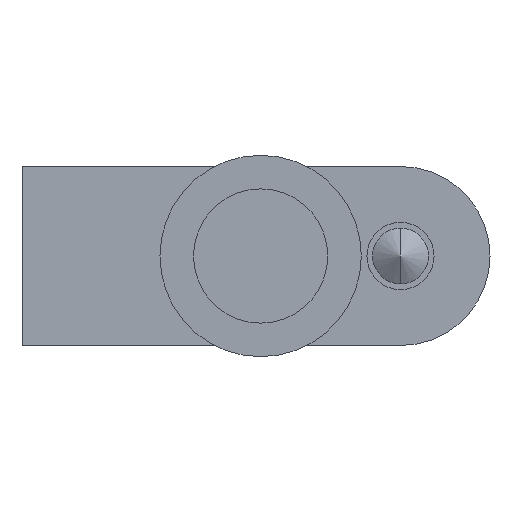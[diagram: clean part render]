
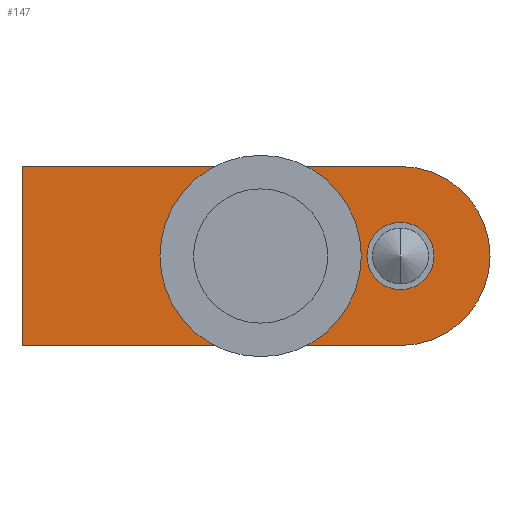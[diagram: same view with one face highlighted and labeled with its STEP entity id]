
A CAD part, front view. The second image highlights one B-rep face of the part: STEP entity #147.
In plain terms, the highlighted planar face has unit normal (0, -1, 0).
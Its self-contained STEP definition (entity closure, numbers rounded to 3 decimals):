
#3 = CARTESIAN_POINT ( 'NONE',  ( -21.33, 238.34, -8. ) ) ;
#4 = VERTEX_POINT ( 'NONE', #547 ) ;
#17 = EDGE_CURVE ( 'NONE', #141, #274, #465, .T. ) ;
#21 = ORIENTED_EDGE ( 'NONE', *, *, #178, .T. ) ;
#22 = DIRECTION ( 'NONE',  ( 0., 1., 0. ) ) ;
#38 = LINE ( 'NONE', #3, #45 ) ;
#41 = ORIENTED_EDGE ( 'NONE', *, *, #343, .F. ) ;
#44 = DIRECTION ( 'NONE',  ( 0., 0., 1. ) ) ;
#45 = VECTOR ( 'NONE', #390, 1000. ) ;
#48 = VERTEX_POINT ( 'NONE', #202 ) ;
#51 = CARTESIAN_POINT ( 'NONE',  ( -21.33, 238.34, 8. ) ) ;
#69 = DIRECTION ( 'NONE',  ( 0., 0., 1. ) ) ;
#72 = FACE_BOUND ( 'NONE', #533, .T. ) ;
#78 = CIRCLE ( 'NONE', #360, 6. ) ;
#85 = EDGE_CURVE ( 'NONE', #4, #551, #298, .T. ) ;
#92 = ORIENTED_EDGE ( 'NONE', *, *, #17, .T. ) ;
#141 = VERTEX_POINT ( 'NONE', #355 ) ;
#147 = ADVANCED_FACE ( 'NONE', ( #164, #334, #72 ), #258, .F. ) ;
#151 = DIRECTION ( 'NONE',  ( 0., 1., 0. ) ) ;
#156 = EDGE_CURVE ( 'NONE', #48, #429, #205, .T. ) ;
#162 = LINE ( 'NONE', #51, #171 ) ;
#164 = FACE_BOUND ( 'NONE', #233, .T. ) ;
#168 = CARTESIAN_POINT ( 'NONE',  ( 12.5, 238.34, -8. ) ) ;
#171 = VECTOR ( 'NONE', #44, 1000. ) ;
#175 = EDGE_CURVE ( 'NONE', #429, #48, #242, .T. ) ;
#178 = EDGE_CURVE ( 'NONE', #274, #141, #78, .T. ) ;
#200 = DIRECTION ( 'NONE',  ( 1., 0., 0. ) ) ;
#202 = CARTESIAN_POINT ( 'NONE',  ( 12.5, 238.34, -3. ) ) ;
#205 = CIRCLE ( 'NONE', #474, 3. ) ;
#228 = AXIS2_PLACEMENT_3D ( 'NONE', #306, #354, #69 ) ;
#233 = EDGE_LOOP ( 'NONE', ( #92, #21 ) ) ;
#242 = CIRCLE ( 'NONE', #228, 3. ) ;
#243 = VERTEX_POINT ( 'NONE', #168 ) ;
#258 = PLANE ( 'NONE',  #490 ) ;
#273 = EDGE_LOOP ( 'NONE', ( #438, #454, #41, #341 ) ) ;
#274 = VERTEX_POINT ( 'NONE', #318 ) ;
#278 = CARTESIAN_POINT ( 'NONE',  ( 12.5, 238.34, 3. ) ) ;
#285 = DIRECTION ( 'NONE',  ( 0., 0., 1. ) ) ;
#295 = DIRECTION ( 'NONE',  ( 0., 0., 1. ) ) ;
#298 = LINE ( 'NONE', #491, #449 ) ;
#306 = CARTESIAN_POINT ( 'NONE',  ( 12.5, 238.34, 0. ) ) ;
#309 = CARTESIAN_POINT ( 'NONE',  ( 0., 238.34, 0. ) ) ;
#316 = DIRECTION ( 'NONE',  ( 0., 1., 0. ) ) ;
#318 = CARTESIAN_POINT ( 'NONE',  ( 0., 238.34, 6. ) ) ;
#329 = DIRECTION ( 'NONE',  ( 0., 1., 0. ) ) ;
#334 = FACE_OUTER_BOUND ( 'NONE', #273, .T. ) ;
#335 = CARTESIAN_POINT ( 'NONE',  ( 12.5, 238.34, 8. ) ) ;
#341 = ORIENTED_EDGE ( 'NONE', *, *, #85, .F. ) ;
#343 = EDGE_CURVE ( 'NONE', #551, #243, #494, .T. ) ;
#354 = DIRECTION ( 'NONE',  ( 0., -1., 0. ) ) ;
#355 = CARTESIAN_POINT ( 'NONE',  ( 0., 238.34, -6. ) ) ;
#359 = DIRECTION ( 'NONE',  ( 0., 0., 1. ) ) ;
#360 = AXIS2_PLACEMENT_3D ( 'NONE', #309, #22, #359 ) ;
#375 = CARTESIAN_POINT ( 'NONE',  ( 12.5, 238.34, 0. ) ) ;
#390 = DIRECTION ( 'NONE',  ( -1., 0., 0. ) ) ;
#394 = CARTESIAN_POINT ( 'NONE',  ( 0., 238.34, 0. ) ) ;
#429 = VERTEX_POINT ( 'NONE', #278 ) ;
#438 = ORIENTED_EDGE ( 'NONE', *, *, #514, .F. ) ;
#449 = VECTOR ( 'NONE', #200, 1000. ) ;
#454 = ORIENTED_EDGE ( 'NONE', *, *, #590, .F. ) ;
#455 = DIRECTION ( 'NONE',  ( 0., 0., 1. ) ) ;
#459 = DIRECTION ( 'NONE',  ( 0., 0., 1. ) ) ;
#465 = CIRCLE ( 'NONE', #624, 6. ) ;
#467 = VERTEX_POINT ( 'NONE', #619 ) ;
#474 = AXIS2_PLACEMENT_3D ( 'NONE', #553, #501, #455 ) ;
#490 = AXIS2_PLACEMENT_3D ( 'NONE', #505, #316, #459 ) ;
#491 = CARTESIAN_POINT ( 'NONE',  ( -21.33, 238.34, 8. ) ) ;
#494 = CIRCLE ( 'NONE', #522, 8. ) ;
#501 = DIRECTION ( 'NONE',  ( 0., -1., 0. ) ) ;
#504 = ORIENTED_EDGE ( 'NONE', *, *, #156, .F. ) ;
#505 = CARTESIAN_POINT ( 'NONE',  ( 12.5, 238.34, 0. ) ) ;
#514 = EDGE_CURVE ( 'NONE', #467, #4, #162, .T. ) ;
#522 = AXIS2_PLACEMENT_3D ( 'NONE', #375, #329, #285 ) ;
#533 = EDGE_LOOP ( 'NONE', ( #577, #504 ) ) ;
#547 = CARTESIAN_POINT ( 'NONE',  ( -21.33, 238.34, 8. ) ) ;
#551 = VERTEX_POINT ( 'NONE', #335 ) ;
#553 = CARTESIAN_POINT ( 'NONE',  ( 12.5, 238.34, 0. ) ) ;
#577 = ORIENTED_EDGE ( 'NONE', *, *, #175, .F. ) ;
#590 = EDGE_CURVE ( 'NONE', #243, #467, #38, .T. ) ;
#619 = CARTESIAN_POINT ( 'NONE',  ( -21.33, 238.34, -8. ) ) ;
#624 = AXIS2_PLACEMENT_3D ( 'NONE', #394, #151, #295 ) ;
